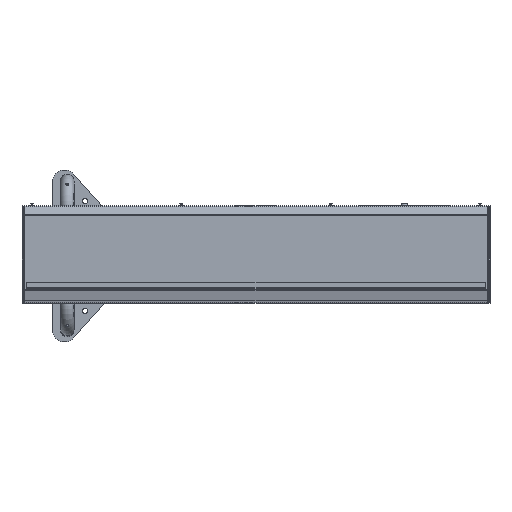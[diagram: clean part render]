
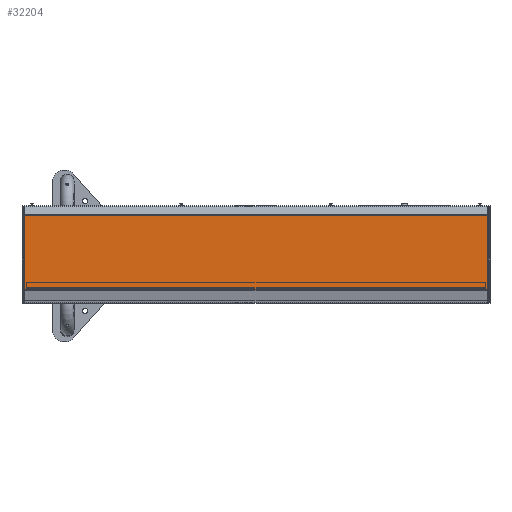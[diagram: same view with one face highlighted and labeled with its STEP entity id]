
A CAD part, top view. The second image highlights one B-rep face of the part: STEP entity #32204.
In plain terms, the highlighted planar face has unit normal (0, 0, 1).
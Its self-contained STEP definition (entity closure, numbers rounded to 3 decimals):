
#10032=ORIENTED_EDGE('',*,*,#14350,.F.);
#10033=ORIENTED_EDGE('',*,*,#14342,.T.);
#10034=ORIENTED_EDGE('',*,*,#14348,.F.);
#10035=ORIENTED_EDGE('',*,*,#14351,.T.);
#10036=ORIENTED_EDGE('',*,*,#14352,.F.);
#10037=ORIENTED_EDGE('',*,*,#14271,.T.);
#10038=ORIENTED_EDGE('',*,*,#14353,.F.);
#10039=ORIENTED_EDGE('',*,*,#14354,.T.);
#14271=EDGE_CURVE('',#17231,#17230,#19379,.T.);
#14342=EDGE_CURVE('',#17279,#17281,#19424,.T.);
#14348=EDGE_CURVE('',#17283,#17281,#19430,.T.);
#14350=EDGE_CURVE('',#17279,#17284,#19432,.T.);
#14351=EDGE_CURVE('',#17283,#17285,#19433,.T.);
#14352=EDGE_CURVE('',#17231,#17285,#19434,.T.);
#14353=EDGE_CURVE('',#17286,#17230,#19435,.T.);
#14354=EDGE_CURVE('',#17286,#17284,#19436,.T.);
#17230=VERTEX_POINT('',#60025);
#17231=VERTEX_POINT('',#60027);
#17279=VERTEX_POINT('',#60169);
#17281=VERTEX_POINT('',#60174);
#17283=VERTEX_POINT('',#60187);
#17284=VERTEX_POINT('',#60192);
#17285=VERTEX_POINT('',#60194);
#17286=VERTEX_POINT('',#60197);
#19379=LINE('',#60026,#21483);
#19424=LINE('',#60175,#21528);
#19430=LINE('',#60188,#21534);
#19432=LINE('',#60191,#21536);
#19433=LINE('',#60193,#21537);
#19434=LINE('',#60195,#21538);
#19435=LINE('',#60196,#21539);
#19436=LINE('',#60198,#21540);
#21483=VECTOR('',#43492,1000.);
#21528=VECTOR('',#43643,1000.);
#21534=VECTOR('',#43659,1000.);
#21536=VECTOR('',#43663,1000.);
#21537=VECTOR('',#43664,1000.);
#21538=VECTOR('',#43665,1000.);
#21539=VECTOR('',#43666,1000.);
#21540=VECTOR('',#43667,1000.);
#24181=EDGE_LOOP('',(#10032,#10033,#10034,#10035,#10036,#10037,#10038,#10039));
#26900=FACE_BOUND('',#24181,.T.);
#28233=PLANE('',#35519);
#32204=ADVANCED_FACE('',(#26900),#28233,.F.);
#35519=AXIS2_PLACEMENT_3D('',#60190,#43661,#43662);
#43492=DIRECTION('',(1.,0.,0.));
#43643=DIRECTION('',(-1.,0.,0.));
#43659=DIRECTION('',(0.,1.,0.));
#43661=DIRECTION('',(0.,0.,-1.));
#43662=DIRECTION('',(0.,-1.,0.));
#43663=DIRECTION('',(0.,-1.,0.));
#43664=DIRECTION('',(0.,-1.,0.));
#43665=DIRECTION('',(0.,1.,0.));
#43666=DIRECTION('',(0.,-1.,0.));
#43667=DIRECTION('',(0.,1.,0.));
#60025=CARTESIAN_POINT('',(722.15,-107.13,209.988));
#60026=CARTESIAN_POINT('',(-724.15,-107.13,209.988));
#60027=CARTESIAN_POINT('',(-722.15,-107.13,209.988));
#60169=CARTESIAN_POINT('',(722.15,121.491,209.988));
#60174=CARTESIAN_POINT('',(-722.15,121.491,209.988));
#60175=CARTESIAN_POINT('',(724.15,121.491,209.988));
#60187=CARTESIAN_POINT('',(-722.15,121.489,209.988));
#60188=CARTESIAN_POINT('',(-722.15,121.489,209.988));
#60190=CARTESIAN_POINT('',(-724.15,122.274,209.988));
#60191=CARTESIAN_POINT('',(722.15,-107.128,209.988));
#60192=CARTESIAN_POINT('',(722.15,121.489,209.988));
#60193=CARTESIAN_POINT('',(-722.15,121.489,209.988));
#60194=CARTESIAN_POINT('',(-722.15,-107.128,209.988));
#60195=CARTESIAN_POINT('',(-722.15,121.489,209.988));
#60196=CARTESIAN_POINT('',(722.15,-107.128,209.988));
#60197=CARTESIAN_POINT('',(722.15,-107.128,209.988));
#60198=CARTESIAN_POINT('',(722.15,-107.128,209.988));
